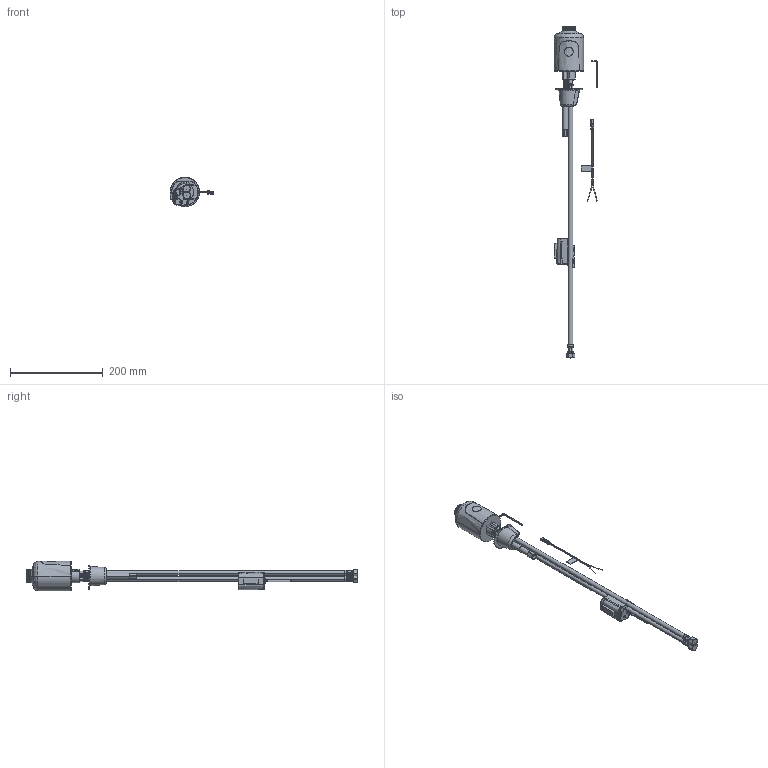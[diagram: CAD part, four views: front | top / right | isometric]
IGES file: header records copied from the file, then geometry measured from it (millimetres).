
Start section:  PTC IGES file: 116-686-ab-1t_REV061522.igs
Global section: file name: 116-686-ab-1t_REV061522.igs; native system: Creo Parametric by PTC Inc.; preprocessor: 2021184; author: rodjo; organization: Unknown; date: 20220615.133650; units: inch
Bounding box: 94.26 x 716.2 x 63.8 mm (x, y, z)
Surface area: 122224.1 mm2 (no closed solid volume)
Topology: 0 solids, 0 shells, 750 faces, 6996 edges, 9754 vertices
Faces by surface type: revolution 463, bspline 287
